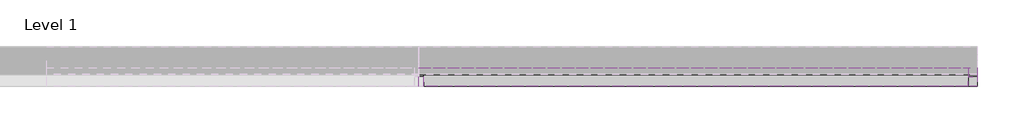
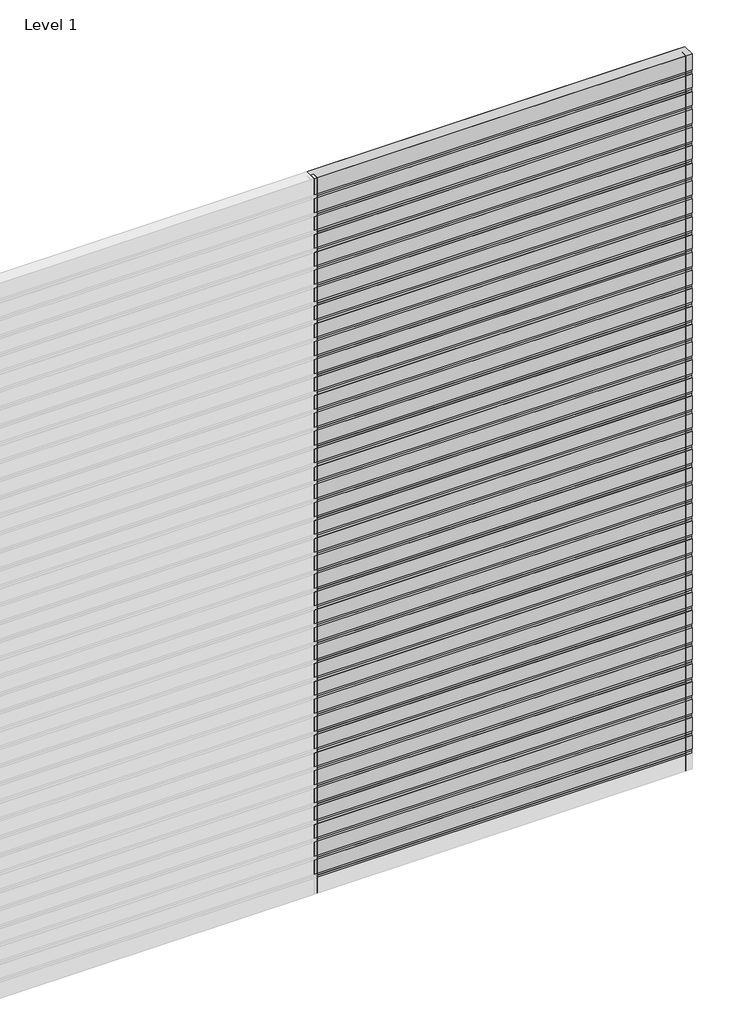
# One storey, part 3 of 3: 79 plates, 40 members.
"""IFC4 building model written with IfcOpenShell, lengths in millimetres."""

from ifc_helpers import new_model, si_unit, origin, place, context, project, spatial, transform, mapped, element, save
from components import rectangular_mullion_64cc6fdd, empty_system_panel_empty_095e2861, empty_system_panel_empty_98f2a64c, empty_system_panel_empty_149e9d60

model = new_model("IFC4")

# Units and contexts
model_context = context("Model", 3, world=origin())
ifc_project = project(units=[si_unit("LENGTHUNIT", "METRE", prefix="MILLI")], contexts=[model_context])

# Site, building, storey
site = spatial("IfcSite", under=ifc_project)
building = spatial("IfcBuilding", under=site)
storey = spatial("IfcBuildingStorey", under=building, Name="Level 1", Elevation=0.0)

# Members
placement = place(None, origin())
rectangular_mullion_shape = rectangular_mullion_64cc6fdd(model_context)
element("IfcMember", 1, ObjectType="Rectangular Mullion : RSen_21_CWM_support profile 50x50 - right_gen_duco projects", at=placement, inside=storey, context=model_context, shape_type="MappedRepresentation", body=[
    mapped(rectangular_mullion_shape, transform((6000.0, 3000.0, 6000.0), x_axis=(1.0, 0.0, 0.0), y_axis=(0.0, 1.0, 0.0), z_axis=(0.0, 0.0, 1.0))),
])
element("IfcMember", 2, ObjectType="Rectangular Mullion : RSen_21_CWM_support profile 50x50 - right_gen_duco projects", at=placement, inside=storey, context=model_context, shape_type="MappedRepresentation", body=[
    mapped(rectangular_mullion_shape, transform((6000.0, 3000.0, 150.0), x_axis=(1.0, 0.0, 0.0), y_axis=(0.0, 1.0, 0.0), z_axis=(0.0, 0.0, 1.0))),
])
element("IfcMember", 3, ObjectType="Rectangular Mullion : RSen_21_CWM_support profile 50x50 - right_gen_duco projects", at=placement, inside=storey, context=model_context, shape_type="MappedRepresentation", body=[
    mapped(rectangular_mullion_shape, transform((6000.0, 3000.0, 300.0), x_axis=(1.0, 0.0, 0.0), y_axis=(0.0, 1.0, 0.0), z_axis=(0.0, 0.0, 1.0))),
])
element("IfcMember", 4, ObjectType="Rectangular Mullion : RSen_21_CWM_support profile 50x50 - right_gen_duco projects", at=placement, inside=storey, context=model_context, shape_type="MappedRepresentation", body=[
    mapped(rectangular_mullion_shape, transform((6000.0, 3000.0, 450.0), x_axis=(1.0, 0.0, 0.0), y_axis=(0.0, 1.0, 0.0), z_axis=(0.0, 0.0, 1.0))),
])
element("IfcMember", 5, ObjectType="Rectangular Mullion : RSen_21_CWM_support profile 50x50 - right_gen_duco projects", at=placement, inside=storey, context=model_context, shape_type="MappedRepresentation", body=[
    mapped(rectangular_mullion_shape, transform((6000.0, 3000.0, 600.0), x_axis=(1.0, 0.0, 0.0), y_axis=(0.0, 1.0, 0.0), z_axis=(0.0, 0.0, 1.0))),
])
element("IfcMember", 6, ObjectType="Rectangular Mullion : RSen_21_CWM_support profile 50x50 - right_gen_duco projects", at=placement, inside=storey, context=model_context, shape_type="MappedRepresentation", body=[
    mapped(rectangular_mullion_shape, transform((6000.0, 3000.0, 750.0), x_axis=(1.0, 0.0, 0.0), y_axis=(0.0, 1.0, 0.0), z_axis=(0.0, 0.0, 1.0))),
])
element("IfcMember", 7, ObjectType="Rectangular Mullion : RSen_21_CWM_support profile 50x50 - right_gen_duco projects", at=placement, inside=storey, context=model_context, shape_type="MappedRepresentation", body=[
    mapped(rectangular_mullion_shape, transform((6000.0, 3000.0, 900.0), x_axis=(1.0, 0.0, 0.0), y_axis=(0.0, 1.0, 0.0), z_axis=(0.0, 0.0, 1.0))),
])
element("IfcMember", 8, ObjectType="Rectangular Mullion : RSen_21_CWM_support profile 50x50 - right_gen_duco projects", at=placement, inside=storey, context=model_context, shape_type="MappedRepresentation", body=[
    mapped(rectangular_mullion_shape, transform((6000.0, 3000.0, 1050.0), x_axis=(1.0, 0.0, 0.0), y_axis=(0.0, 1.0, 0.0), z_axis=(0.0, 0.0, 1.0))),
])
element("IfcMember", 9, ObjectType="Rectangular Mullion : RSen_21_CWM_support profile 50x50 - right_gen_duco projects", at=placement, inside=storey, context=model_context, shape_type="MappedRepresentation", body=[
    mapped(rectangular_mullion_shape, transform((6000.0, 3000.0, 1200.0), x_axis=(1.0, 0.0, 0.0), y_axis=(0.0, 1.0, 0.0), z_axis=(0.0, 0.0, 1.0))),
])
element("IfcMember", 10, ObjectType="Rectangular Mullion : RSen_21_CWM_support profile 50x50 - right_gen_duco projects", at=placement, inside=storey, context=model_context, shape_type="MappedRepresentation", body=[
    mapped(rectangular_mullion_shape, transform((6000.0, 3000.0, 1350.0), x_axis=(1.0, 0.0, 0.0), y_axis=(0.0, 1.0, 0.0), z_axis=(0.0, 0.0, 1.0))),
])
element("IfcMember", 11, ObjectType="Rectangular Mullion : RSen_21_CWM_support profile 50x50 - right_gen_duco projects", at=placement, inside=storey, context=model_context, shape_type="MappedRepresentation", body=[
    mapped(rectangular_mullion_shape, transform((6000.0, 3000.0, 1500.0), x_axis=(1.0, 0.0, 0.0), y_axis=(0.0, 1.0, 0.0), z_axis=(0.0, 0.0, 1.0))),
])
element("IfcMember", 12, ObjectType="Rectangular Mullion : RSen_21_CWM_support profile 50x50 - right_gen_duco projects", at=placement, inside=storey, context=model_context, shape_type="MappedRepresentation", body=[
    mapped(rectangular_mullion_shape, transform((6000.0, 3000.0, 1650.0), x_axis=(1.0, 0.0, 0.0), y_axis=(0.0, 1.0, 0.0), z_axis=(0.0, 0.0, 1.0))),
])
element("IfcMember", 13, ObjectType="Rectangular Mullion : RSen_21_CWM_support profile 50x50 - right_gen_duco projects", at=placement, inside=storey, context=model_context, shape_type="MappedRepresentation", body=[
    mapped(rectangular_mullion_shape, transform((6000.0, 3000.0, 1800.0), x_axis=(1.0, 0.0, 0.0), y_axis=(0.0, 1.0, 0.0), z_axis=(0.0, 0.0, 1.0))),
])
element("IfcMember", 14, ObjectType="Rectangular Mullion : RSen_21_CWM_support profile 50x50 - right_gen_duco projects", at=placement, inside=storey, context=model_context, shape_type="MappedRepresentation", body=[
    mapped(rectangular_mullion_shape, transform((6000.0, 3000.0, 1950.0), x_axis=(1.0, 0.0, 0.0), y_axis=(0.0, 1.0, 0.0), z_axis=(0.0, 0.0, 1.0))),
])
element("IfcMember", 15, ObjectType="Rectangular Mullion : RSen_21_CWM_support profile 50x50 - right_gen_duco projects", at=placement, inside=storey, context=model_context, shape_type="MappedRepresentation", body=[
    mapped(rectangular_mullion_shape, transform((6000.0, 3000.0, 2100.0), x_axis=(1.0, 0.0, 0.0), y_axis=(0.0, 1.0, 0.0), z_axis=(0.0, 0.0, 1.0))),
])
element("IfcMember", 16, ObjectType="Rectangular Mullion : RSen_21_CWM_support profile 50x50 - right_gen_duco projects", at=placement, inside=storey, context=model_context, shape_type="MappedRepresentation", body=[
    mapped(rectangular_mullion_shape, transform((6000.0, 3000.0, 2250.0), x_axis=(1.0, 0.0, 0.0), y_axis=(0.0, 1.0, 0.0), z_axis=(0.0, 0.0, 1.0))),
])
element("IfcMember", 17, ObjectType="Rectangular Mullion : RSen_21_CWM_support profile 50x50 - right_gen_duco projects", at=placement, inside=storey, context=model_context, shape_type="MappedRepresentation", body=[
    mapped(rectangular_mullion_shape, transform((6000.0, 3000.0, 2400.0), x_axis=(1.0, 0.0, 0.0), y_axis=(0.0, 1.0, 0.0), z_axis=(0.0, 0.0, 1.0))),
])
element("IfcMember", 18, ObjectType="Rectangular Mullion : RSen_21_CWM_support profile 50x50 - right_gen_duco projects", at=placement, inside=storey, context=model_context, shape_type="MappedRepresentation", body=[
    mapped(rectangular_mullion_shape, transform((6000.0, 3000.0, 2550.0), x_axis=(1.0, 0.0, 0.0), y_axis=(0.0, 1.0, 0.0), z_axis=(0.0, 0.0, 1.0))),
])
element("IfcMember", 19, ObjectType="Rectangular Mullion : RSen_21_CWM_support profile 50x50 - right_gen_duco projects", at=placement, inside=storey, context=model_context, shape_type="MappedRepresentation", body=[
    mapped(rectangular_mullion_shape, transform((6000.0, 3000.0, 2700.0), x_axis=(1.0, 0.0, 0.0), y_axis=(0.0, 1.0, 0.0), z_axis=(0.0, 0.0, 1.0))),
])
element("IfcMember", 20, ObjectType="Rectangular Mullion : RSen_21_CWM_support profile 50x50 - right_gen_duco projects", at=placement, inside=storey, context=model_context, shape_type="MappedRepresentation", body=[
    mapped(rectangular_mullion_shape, transform((6000.0, 3000.0, 2850.0), x_axis=(1.0, 0.0, 0.0), y_axis=(0.0, 1.0, 0.0), z_axis=(0.0, 0.0, 1.0))),
])
element("IfcMember", 21, ObjectType="Rectangular Mullion : RSen_21_CWM_support profile 50x50 - right_gen_duco projects", at=placement, inside=storey, context=model_context, shape_type="MappedRepresentation", body=[
    mapped(rectangular_mullion_shape, transform((6000.0, 3000.0, 3000.0), x_axis=(1.0, 0.0, 0.0), y_axis=(0.0, 1.0, 0.0), z_axis=(0.0, 0.0, 1.0))),
])
element("IfcMember", 22, ObjectType="Rectangular Mullion : RSen_21_CWM_support profile 50x50 - right_gen_duco projects", at=placement, inside=storey, context=model_context, shape_type="MappedRepresentation", body=[
    mapped(rectangular_mullion_shape, transform((6000.0, 3000.0, 3150.0), x_axis=(1.0, 0.0, 0.0), y_axis=(0.0, 1.0, 0.0), z_axis=(0.0, 0.0, 1.0))),
])
element("IfcMember", 23, ObjectType="Rectangular Mullion : RSen_21_CWM_support profile 50x50 - right_gen_duco projects", at=placement, inside=storey, context=model_context, shape_type="MappedRepresentation", body=[
    mapped(rectangular_mullion_shape, transform((6000.0, 3000.0, 3300.0), x_axis=(1.0, 0.0, 0.0), y_axis=(0.0, 1.0, 0.0), z_axis=(0.0, 0.0, 1.0))),
])
element("IfcMember", 24, ObjectType="Rectangular Mullion : RSen_21_CWM_support profile 50x50 - right_gen_duco projects", at=placement, inside=storey, context=model_context, shape_type="MappedRepresentation", body=[
    mapped(rectangular_mullion_shape, transform((6000.0, 3000.0, 3450.0), x_axis=(1.0, 0.0, 0.0), y_axis=(0.0, 1.0, 0.0), z_axis=(0.0, 0.0, 1.0))),
])
element("IfcMember", 25, ObjectType="Rectangular Mullion : RSen_21_CWM_support profile 50x50 - right_gen_duco projects", at=placement, inside=storey, context=model_context, shape_type="MappedRepresentation", body=[
    mapped(rectangular_mullion_shape, transform((6000.0, 3000.0, 3600.0), x_axis=(1.0, 0.0, 0.0), y_axis=(0.0, 1.0, 0.0), z_axis=(0.0, 0.0, 1.0))),
])
element("IfcMember", 26, ObjectType="Rectangular Mullion : RSen_21_CWM_support profile 50x50 - right_gen_duco projects", at=placement, inside=storey, context=model_context, shape_type="MappedRepresentation", body=[
    mapped(rectangular_mullion_shape, transform((6000.0, 3000.0, 3750.0), x_axis=(1.0, 0.0, 0.0), y_axis=(0.0, 1.0, 0.0), z_axis=(0.0, 0.0, 1.0))),
])
element("IfcMember", 27, ObjectType="Rectangular Mullion : RSen_21_CWM_support profile 50x50 - right_gen_duco projects", at=placement, inside=storey, context=model_context, shape_type="MappedRepresentation", body=[
    mapped(rectangular_mullion_shape, transform((6000.0, 3000.0, 3900.0), x_axis=(1.0, 0.0, 0.0), y_axis=(0.0, 1.0, 0.0), z_axis=(0.0, 0.0, 1.0))),
])
element("IfcMember", 28, ObjectType="Rectangular Mullion : RSen_21_CWM_support profile 50x50 - right_gen_duco projects", at=placement, inside=storey, context=model_context, shape_type="MappedRepresentation", body=[
    mapped(rectangular_mullion_shape, transform((6000.0, 3000.0, 4050.0), x_axis=(1.0, 0.0, 0.0), y_axis=(0.0, 1.0, 0.0), z_axis=(0.0, 0.0, 1.0))),
])
element("IfcMember", 29, ObjectType="Rectangular Mullion : RSen_21_CWM_support profile 50x50 - right_gen_duco projects", at=placement, inside=storey, context=model_context, shape_type="MappedRepresentation", body=[
    mapped(rectangular_mullion_shape, transform((6000.0, 3000.0, 4200.0), x_axis=(1.0, 0.0, 0.0), y_axis=(0.0, 1.0, 0.0), z_axis=(0.0, 0.0, 1.0))),
])
element("IfcMember", 30, ObjectType="Rectangular Mullion : RSen_21_CWM_support profile 50x50 - right_gen_duco projects", at=placement, inside=storey, context=model_context, shape_type="MappedRepresentation", body=[
    mapped(rectangular_mullion_shape, transform((6000.0, 3000.0, 4350.0), x_axis=(1.0, 0.0, 0.0), y_axis=(0.0, 1.0, 0.0), z_axis=(0.0, 0.0, 1.0))),
])
element("IfcMember", 31, ObjectType="Rectangular Mullion : RSen_21_CWM_support profile 50x50 - right_gen_duco projects", at=placement, inside=storey, context=model_context, shape_type="MappedRepresentation", body=[
    mapped(rectangular_mullion_shape, transform((6000.0, 3000.0, 4500.0), x_axis=(1.0, 0.0, 0.0), y_axis=(0.0, 1.0, 0.0), z_axis=(0.0, 0.0, 1.0))),
])
element("IfcMember", 32, ObjectType="Rectangular Mullion : RSen_21_CWM_support profile 50x50 - right_gen_duco projects", at=placement, inside=storey, context=model_context, shape_type="MappedRepresentation", body=[
    mapped(rectangular_mullion_shape, transform((6000.0, 3000.0, 4650.0), x_axis=(1.0, 0.0, 0.0), y_axis=(0.0, 1.0, 0.0), z_axis=(0.0, 0.0, 1.0))),
])
element("IfcMember", 33, ObjectType="Rectangular Mullion : RSen_21_CWM_support profile 50x50 - right_gen_duco projects", at=placement, inside=storey, context=model_context, shape_type="MappedRepresentation", body=[
    mapped(rectangular_mullion_shape, transform((6000.0, 3000.0, 4800.0), x_axis=(1.0, 0.0, 0.0), y_axis=(0.0, 1.0, 0.0), z_axis=(0.0, 0.0, 1.0))),
])
element("IfcMember", 34, ObjectType="Rectangular Mullion : RSen_21_CWM_support profile 50x50 - right_gen_duco projects", at=placement, inside=storey, context=model_context, shape_type="MappedRepresentation", body=[
    mapped(rectangular_mullion_shape, transform((6000.0, 3000.0, 4950.0), x_axis=(1.0, 0.0, 0.0), y_axis=(0.0, 1.0, 0.0), z_axis=(0.0, 0.0, 1.0))),
])
element("IfcMember", 35, ObjectType="Rectangular Mullion : RSen_21_CWM_support profile 50x50 - right_gen_duco projects", at=placement, inside=storey, context=model_context, shape_type="MappedRepresentation", body=[
    mapped(rectangular_mullion_shape, transform((6000.0, 3000.0, 5100.0), x_axis=(1.0, 0.0, 0.0), y_axis=(0.0, 1.0, 0.0), z_axis=(0.0, 0.0, 1.0))),
])
element("IfcMember", 36, ObjectType="Rectangular Mullion : RSen_21_CWM_support profile 50x50 - right_gen_duco projects", at=placement, inside=storey, context=model_context, shape_type="MappedRepresentation", body=[
    mapped(rectangular_mullion_shape, transform((6000.0, 3000.0, 5250.0), x_axis=(1.0, 0.0, 0.0), y_axis=(0.0, 1.0, 0.0), z_axis=(0.0, 0.0, 1.0))),
])
element("IfcMember", 37, ObjectType="Rectangular Mullion : RSen_21_CWM_support profile 50x50 - right_gen_duco projects", at=placement, inside=storey, context=model_context, shape_type="MappedRepresentation", body=[
    mapped(rectangular_mullion_shape, transform((6000.0, 3000.0, 5400.0), x_axis=(1.0, 0.0, 0.0), y_axis=(0.0, 1.0, 0.0), z_axis=(0.0, 0.0, 1.0))),
])
element("IfcMember", 38, ObjectType="Rectangular Mullion : RSen_21_CWM_support profile 50x50 - right_gen_duco projects", at=placement, inside=storey, context=model_context, shape_type="MappedRepresentation", body=[
    mapped(rectangular_mullion_shape, transform((6000.0, 3000.0, 5550.0), x_axis=(1.0, 0.0, 0.0), y_axis=(0.0, 1.0, 0.0), z_axis=(0.0, 0.0, 1.0))),
])
element("IfcMember", 39, ObjectType="Rectangular Mullion : RSen_21_CWM_support profile 50x50 - right_gen_duco projects", at=placement, inside=storey, context=model_context, shape_type="MappedRepresentation", body=[
    mapped(rectangular_mullion_shape, transform((6000.0, 3000.0, 5700.0), x_axis=(1.0, 0.0, 0.0), y_axis=(0.0, 1.0, 0.0), z_axis=(0.0, 0.0, 1.0))),
])
element("IfcMember", 40, ObjectType="Rectangular Mullion : RSen_21_CWM_support profile 50x50 - right_gen_duco projects", at=placement, inside=storey, context=model_context, shape_type="MappedRepresentation", body=[
    mapped(rectangular_mullion_shape, transform((6000.0, 3000.0, 5850.0), x_axis=(1.0, 0.0, 0.0), y_axis=(0.0, 1.0, 0.0), z_axis=(0.0, 0.0, 1.0))),
])

# Plates
empty_system_panel_empty_shape = empty_system_panel_empty_095e2861(model_context)
element("IfcPlate", 41, ObjectType="Empty System Panel : Empty", at=placement, inside=storey, context=model_context, shape_type="MappedRepresentation", body=[
    mapped(empty_system_panel_empty_shape, transform((4500.0, 3000.0, 5867.5), x_axis=(-1.0, 0.0, 0.0), y_axis=(0.0, -1.0, 0.0), z_axis=(0.0, 0.0, 1.0))),
])
empty_system_panel_empty_2_shape = empty_system_panel_empty_98f2a64c(model_context)
element("IfcPlate", 42, ObjectType="Empty System Panel : Empty", at=placement, inside=storey, context=model_context, shape_type="MappedRepresentation", body=[
    mapped(empty_system_panel_empty_2_shape, transform((4500.0, 3000.0, 167.5), x_axis=(-1.0, 0.0, 0.0), y_axis=(0.0, -1.0, 0.0), z_axis=(0.0, 0.0, 1.0))),
])
element("IfcPlate", 43, ObjectType="Empty System Panel : Empty", at=placement, inside=storey, context=model_context, shape_type="MappedRepresentation", body=[
    mapped(empty_system_panel_empty_2_shape, transform((4500.0, 3000.0, 317.5), x_axis=(-1.0, 0.0, 0.0), y_axis=(0.0, -1.0, 0.0), z_axis=(0.0, 0.0, 1.0))),
])
element("IfcPlate", 44, ObjectType="Empty System Panel : Empty", at=placement, inside=storey, context=model_context, shape_type="MappedRepresentation", body=[
    mapped(empty_system_panel_empty_2_shape, transform((4500.0, 3000.0, 467.5), x_axis=(-1.0, 0.0, 0.0), y_axis=(0.0, -1.0, 0.0), z_axis=(0.0, 0.0, 1.0))),
])
element("IfcPlate", 45, ObjectType="Empty System Panel : Empty", at=placement, inside=storey, context=model_context, shape_type="MappedRepresentation", body=[
    mapped(empty_system_panel_empty_2_shape, transform((4500.0, 3000.0, 617.5), x_axis=(-1.0, 0.0, 0.0), y_axis=(0.0, -1.0, 0.0), z_axis=(0.0, 0.0, 1.0))),
])
element("IfcPlate", 46, ObjectType="Empty System Panel : Empty", at=placement, inside=storey, context=model_context, shape_type="MappedRepresentation", body=[
    mapped(empty_system_panel_empty_2_shape, transform((4500.0, 3000.0, 767.5), x_axis=(-1.0, 0.0, 0.0), y_axis=(0.0, -1.0, 0.0), z_axis=(0.0, 0.0, 1.0))),
])
element("IfcPlate", 47, ObjectType="Empty System Panel : Empty", at=placement, inside=storey, context=model_context, shape_type="MappedRepresentation", body=[
    mapped(empty_system_panel_empty_2_shape, transform((4500.0, 3000.0, 917.5), x_axis=(-1.0, 0.0, 0.0), y_axis=(0.0, -1.0, 0.0), z_axis=(0.0, 0.0, 1.0))),
])
element("IfcPlate", 48, ObjectType="Empty System Panel : Empty", at=placement, inside=storey, context=model_context, shape_type="MappedRepresentation", body=[
    mapped(empty_system_panel_empty_2_shape, transform((4500.0, 3000.0, 1067.5), x_axis=(-1.0, 0.0, 0.0), y_axis=(0.0, -1.0, 0.0), z_axis=(0.0, 0.0, 1.0))),
])
element("IfcPlate", 49, ObjectType="Empty System Panel : Empty", at=placement, inside=storey, context=model_context, shape_type="MappedRepresentation", body=[
    mapped(empty_system_panel_empty_2_shape, transform((4500.0, 3000.0, 1217.5), x_axis=(-1.0, 0.0, 0.0), y_axis=(0.0, -1.0, 0.0), z_axis=(0.0, 0.0, 1.0))),
])
element("IfcPlate", 50, ObjectType="Empty System Panel : Empty", at=placement, inside=storey, context=model_context, shape_type="MappedRepresentation", body=[
    mapped(empty_system_panel_empty_2_shape, transform((4500.0, 3000.0, 1367.5), x_axis=(-1.0, 0.0, 0.0), y_axis=(0.0, -1.0, 0.0), z_axis=(0.0, 0.0, 1.0))),
])
element("IfcPlate", 51, ObjectType="Empty System Panel : Empty", at=placement, inside=storey, context=model_context, shape_type="MappedRepresentation", body=[
    mapped(empty_system_panel_empty_2_shape, transform((4500.0, 3000.0, 1517.5), x_axis=(-1.0, 0.0, 0.0), y_axis=(0.0, -1.0, 0.0), z_axis=(0.0, 0.0, 1.0))),
])
element("IfcPlate", 52, ObjectType="Empty System Panel : Empty", at=placement, inside=storey, context=model_context, shape_type="MappedRepresentation", body=[
    mapped(empty_system_panel_empty_2_shape, transform((4500.0, 3000.0, 1667.5), x_axis=(-1.0, 0.0, 0.0), y_axis=(0.0, -1.0, 0.0), z_axis=(0.0, 0.0, 1.0))),
])
element("IfcPlate", 53, ObjectType="Empty System Panel : Empty", at=placement, inside=storey, context=model_context, shape_type="MappedRepresentation", body=[
    mapped(empty_system_panel_empty_2_shape, transform((4500.0, 3000.0, 1817.5), x_axis=(-1.0, 0.0, 0.0), y_axis=(0.0, -1.0, 0.0), z_axis=(0.0, 0.0, 1.0))),
])
element("IfcPlate", 54, ObjectType="Empty System Panel : Empty", at=placement, inside=storey, context=model_context, shape_type="MappedRepresentation", body=[
    mapped(empty_system_panel_empty_2_shape, transform((4500.0, 3000.0, 1967.5), x_axis=(-1.0, 0.0, 0.0), y_axis=(0.0, -1.0, 0.0), z_axis=(0.0, 0.0, 1.0))),
])
element("IfcPlate", 55, ObjectType="Empty System Panel : Empty", at=placement, inside=storey, context=model_context, shape_type="MappedRepresentation", body=[
    mapped(empty_system_panel_empty_2_shape, transform((4500.0, 3000.0, 2117.5), x_axis=(-1.0, 0.0, 0.0), y_axis=(0.0, -1.0, 0.0), z_axis=(0.0, 0.0, 1.0))),
])
element("IfcPlate", 56, ObjectType="Empty System Panel : Empty", at=placement, inside=storey, context=model_context, shape_type="MappedRepresentation", body=[
    mapped(empty_system_panel_empty_2_shape, transform((4500.0, 3000.0, 2267.5), x_axis=(-1.0, 0.0, 0.0), y_axis=(0.0, -1.0, 0.0), z_axis=(0.0, 0.0, 1.0))),
])
element("IfcPlate", 57, ObjectType="Empty System Panel : Empty", at=placement, inside=storey, context=model_context, shape_type="MappedRepresentation", body=[
    mapped(empty_system_panel_empty_2_shape, transform((4500.0, 3000.0, 2417.5), x_axis=(-1.0, 0.0, 0.0), y_axis=(0.0, -1.0, 0.0), z_axis=(0.0, 0.0, 1.0))),
])
element("IfcPlate", 58, ObjectType="Empty System Panel : Empty", at=placement, inside=storey, context=model_context, shape_type="MappedRepresentation", body=[
    mapped(empty_system_panel_empty_2_shape, transform((4500.0, 3000.0, 2567.5), x_axis=(-1.0, 0.0, 0.0), y_axis=(0.0, -1.0, 0.0), z_axis=(0.0, 0.0, 1.0))),
])
element("IfcPlate", 59, ObjectType="Empty System Panel : Empty", at=placement, inside=storey, context=model_context, shape_type="MappedRepresentation", body=[
    mapped(empty_system_panel_empty_2_shape, transform((4500.0, 3000.0, 2717.5), x_axis=(-1.0, 0.0, 0.0), y_axis=(0.0, -1.0, 0.0), z_axis=(0.0, 0.0, 1.0))),
])
element("IfcPlate", 60, ObjectType="Empty System Panel : Empty", at=placement, inside=storey, context=model_context, shape_type="MappedRepresentation", body=[
    mapped(empty_system_panel_empty_2_shape, transform((4500.0, 3000.0, 2867.5), x_axis=(-1.0, 0.0, 0.0), y_axis=(0.0, -1.0, 0.0), z_axis=(0.0, 0.0, 1.0))),
])
element("IfcPlate", 61, ObjectType="Empty System Panel : Empty", at=placement, inside=storey, context=model_context, shape_type="MappedRepresentation", body=[
    mapped(empty_system_panel_empty_2_shape, transform((4500.0, 3000.0, 3017.5), x_axis=(-1.0, 0.0, 0.0), y_axis=(0.0, -1.0, 0.0), z_axis=(0.0, 0.0, 1.0))),
])
element("IfcPlate", 62, ObjectType="Empty System Panel : Empty", at=placement, inside=storey, context=model_context, shape_type="MappedRepresentation", body=[
    mapped(empty_system_panel_empty_2_shape, transform((4500.0, 3000.0, 3167.5), x_axis=(-1.0, 0.0, 0.0), y_axis=(0.0, -1.0, 0.0), z_axis=(0.0, 0.0, 1.0))),
])
element("IfcPlate", 63, ObjectType="Empty System Panel : Empty", at=placement, inside=storey, context=model_context, shape_type="MappedRepresentation", body=[
    mapped(empty_system_panel_empty_2_shape, transform((4500.0, 3000.0, 3317.5), x_axis=(-1.0, 0.0, 0.0), y_axis=(0.0, -1.0, 0.0), z_axis=(0.0, 0.0, 1.0))),
])
element("IfcPlate", 64, ObjectType="Empty System Panel : Empty", at=placement, inside=storey, context=model_context, shape_type="MappedRepresentation", body=[
    mapped(empty_system_panel_empty_2_shape, transform((4500.0, 3000.0, 3467.5), x_axis=(-1.0, 0.0, 0.0), y_axis=(0.0, -1.0, 0.0), z_axis=(0.0, 0.0, 1.0))),
])
element("IfcPlate", 65, ObjectType="Empty System Panel : Empty", at=placement, inside=storey, context=model_context, shape_type="MappedRepresentation", body=[
    mapped(empty_system_panel_empty_2_shape, transform((4500.0, 3000.0, 3617.5), x_axis=(-1.0, 0.0, 0.0), y_axis=(0.0, -1.0, 0.0), z_axis=(0.0, 0.0, 1.0))),
])
element("IfcPlate", 66, ObjectType="Empty System Panel : Empty", at=placement, inside=storey, context=model_context, shape_type="MappedRepresentation", body=[
    mapped(empty_system_panel_empty_2_shape, transform((4500.0, 3000.0, 3767.5), x_axis=(-1.0, 0.0, 0.0), y_axis=(0.0, -1.0, 0.0), z_axis=(0.0, 0.0, 1.0))),
])
element("IfcPlate", 67, ObjectType="Empty System Panel : Empty", at=placement, inside=storey, context=model_context, shape_type="MappedRepresentation", body=[
    mapped(empty_system_panel_empty_2_shape, transform((4500.0, 3000.0, 3917.5), x_axis=(-1.0, 0.0, 0.0), y_axis=(0.0, -1.0, 0.0), z_axis=(0.0, 0.0, 1.0))),
])
element("IfcPlate", 68, ObjectType="Empty System Panel : Empty", at=placement, inside=storey, context=model_context, shape_type="MappedRepresentation", body=[
    mapped(empty_system_panel_empty_2_shape, transform((4500.0, 3000.0, 4067.5), x_axis=(-1.0, 0.0, 0.0), y_axis=(0.0, -1.0, 0.0), z_axis=(0.0, 0.0, 1.0))),
])
element("IfcPlate", 69, ObjectType="Empty System Panel : Empty", at=placement, inside=storey, context=model_context, shape_type="MappedRepresentation", body=[
    mapped(empty_system_panel_empty_2_shape, transform((4500.0, 3000.0, 4217.5), x_axis=(-1.0, 0.0, 0.0), y_axis=(0.0, -1.0, 0.0), z_axis=(0.0, 0.0, 1.0))),
])
element("IfcPlate", 70, ObjectType="Empty System Panel : Empty", at=placement, inside=storey, context=model_context, shape_type="MappedRepresentation", body=[
    mapped(empty_system_panel_empty_2_shape, transform((4500.0, 3000.0, 4367.5), x_axis=(-1.0, 0.0, 0.0), y_axis=(0.0, -1.0, 0.0), z_axis=(0.0, 0.0, 1.0))),
])
element("IfcPlate", 71, ObjectType="Empty System Panel : Empty", at=placement, inside=storey, context=model_context, shape_type="MappedRepresentation", body=[
    mapped(empty_system_panel_empty_2_shape, transform((4500.0, 3000.0, 4517.5), x_axis=(-1.0, 0.0, 0.0), y_axis=(0.0, -1.0, 0.0), z_axis=(0.0, 0.0, 1.0))),
])
element("IfcPlate", 72, ObjectType="Empty System Panel : Empty", at=placement, inside=storey, context=model_context, shape_type="MappedRepresentation", body=[
    mapped(empty_system_panel_empty_2_shape, transform((4500.0, 3000.0, 4667.5), x_axis=(-1.0, 0.0, 0.0), y_axis=(0.0, -1.0, 0.0), z_axis=(0.0, 0.0, 1.0))),
])
element("IfcPlate", 73, ObjectType="Empty System Panel : Empty", at=placement, inside=storey, context=model_context, shape_type="MappedRepresentation", body=[
    mapped(empty_system_panel_empty_2_shape, transform((4500.0, 3000.0, 4817.5), x_axis=(-1.0, 0.0, 0.0), y_axis=(0.0, -1.0, 0.0), z_axis=(0.0, 0.0, 1.0))),
])
element("IfcPlate", 74, ObjectType="Empty System Panel : Empty", at=placement, inside=storey, context=model_context, shape_type="MappedRepresentation", body=[
    mapped(empty_system_panel_empty_2_shape, transform((4500.0, 3000.0, 4967.5), x_axis=(-1.0, 0.0, 0.0), y_axis=(0.0, -1.0, 0.0), z_axis=(0.0, 0.0, 1.0))),
])
element("IfcPlate", 75, ObjectType="Empty System Panel : Empty", at=placement, inside=storey, context=model_context, shape_type="MappedRepresentation", body=[
    mapped(empty_system_panel_empty_2_shape, transform((4500.0, 3000.0, 5117.5), x_axis=(-1.0, 0.0, 0.0), y_axis=(0.0, -1.0, 0.0), z_axis=(0.0, 0.0, 1.0))),
])
element("IfcPlate", 76, ObjectType="Empty System Panel : Empty", at=placement, inside=storey, context=model_context, shape_type="MappedRepresentation", body=[
    mapped(empty_system_panel_empty_2_shape, transform((4500.0, 3000.0, 5267.5), x_axis=(-1.0, 0.0, 0.0), y_axis=(0.0, -1.0, 0.0), z_axis=(0.0, 0.0, 1.0))),
])
element("IfcPlate", 77, ObjectType="Empty System Panel : Empty", at=placement, inside=storey, context=model_context, shape_type="MappedRepresentation", body=[
    mapped(empty_system_panel_empty_2_shape, transform((4500.0, 3000.0, 5417.5), x_axis=(-1.0, 0.0, 0.0), y_axis=(0.0, -1.0, 0.0), z_axis=(0.0, 0.0, 1.0))),
])
element("IfcPlate", 78, ObjectType="Empty System Panel : Empty", at=placement, inside=storey, context=model_context, shape_type="MappedRepresentation", body=[
    mapped(empty_system_panel_empty_2_shape, transform((4500.0, 3000.0, 5567.5), x_axis=(-1.0, 0.0, 0.0), y_axis=(0.0, -1.0, 0.0), z_axis=(0.0, 0.0, 1.0))),
])
element("IfcPlate", 79, ObjectType="Empty System Panel : Empty", at=placement, inside=storey, context=model_context, shape_type="MappedRepresentation", body=[
    mapped(empty_system_panel_empty_2_shape, transform((4500.0, 3000.0, 5717.5), x_axis=(-1.0, 0.0, 0.0), y_axis=(0.0, -1.0, 0.0), z_axis=(0.0, 0.0, 1.0))),
])
empty_system_panel_empty_3_shape = empty_system_panel_empty_149e9d60(model_context)
element("IfcPlate", 80, ObjectType="Empty System Panel : Empty", at=placement, inside=storey, context=model_context, shape_type="MappedRepresentation", body=[
    mapped(empty_system_panel_empty_3_shape, transform((4487.5, 3000.0, 0.0), x_axis=(-1.0, 0.0, 0.0), y_axis=(0.0, -1.0, 0.0), z_axis=(0.0, 0.0, 1.0))),
])
element("IfcPlate", 81, ObjectType="Empty System Panel : Empty", at=placement, inside=storey, context=model_context, shape_type="MappedRepresentation", body=[
    mapped(empty_system_panel_empty_3_shape, transform((4487.5, 3000.0, 150.0), x_axis=(-1.0, 0.0, 0.0), y_axis=(0.0, -1.0, 0.0), z_axis=(0.0, 0.0, 1.0))),
])
element("IfcPlate", 82, ObjectType="Empty System Panel : Empty", at=placement, inside=storey, context=model_context, shape_type="MappedRepresentation", body=[
    mapped(empty_system_panel_empty_3_shape, transform((4487.5, 3000.0, 300.0), x_axis=(-1.0, 0.0, 0.0), y_axis=(0.0, -1.0, 0.0), z_axis=(0.0, 0.0, 1.0))),
])
element("IfcPlate", 83, ObjectType="Empty System Panel : Empty", at=placement, inside=storey, context=model_context, shape_type="MappedRepresentation", body=[
    mapped(empty_system_panel_empty_3_shape, transform((4487.5, 3000.0, 450.0), x_axis=(-1.0, 0.0, 0.0), y_axis=(0.0, -1.0, 0.0), z_axis=(0.0, 0.0, 1.0))),
])
element("IfcPlate", 84, ObjectType="Empty System Panel : Empty", at=placement, inside=storey, context=model_context, shape_type="MappedRepresentation", body=[
    mapped(empty_system_panel_empty_3_shape, transform((4487.5, 3000.0, 600.0), x_axis=(-1.0, 0.0, 0.0), y_axis=(0.0, -1.0, 0.0), z_axis=(0.0, 0.0, 1.0))),
])
element("IfcPlate", 85, ObjectType="Empty System Panel : Empty", at=placement, inside=storey, context=model_context, shape_type="MappedRepresentation", body=[
    mapped(empty_system_panel_empty_3_shape, transform((4487.5, 3000.0, 750.0), x_axis=(-1.0, 0.0, 0.0), y_axis=(0.0, -1.0, 0.0), z_axis=(0.0, 0.0, 1.0))),
])
element("IfcPlate", 86, ObjectType="Empty System Panel : Empty", at=placement, inside=storey, context=model_context, shape_type="MappedRepresentation", body=[
    mapped(empty_system_panel_empty_3_shape, transform((4487.5, 3000.0, 900.0), x_axis=(-1.0, 0.0, 0.0), y_axis=(0.0, -1.0, 0.0), z_axis=(0.0, 0.0, 1.0))),
])
element("IfcPlate", 87, ObjectType="Empty System Panel : Empty", at=placement, inside=storey, context=model_context, shape_type="MappedRepresentation", body=[
    mapped(empty_system_panel_empty_3_shape, transform((4487.5, 3000.0, 1050.0), x_axis=(-1.0, 0.0, 0.0), y_axis=(0.0, -1.0, 0.0), z_axis=(0.0, 0.0, 1.0))),
])
element("IfcPlate", 88, ObjectType="Empty System Panel : Empty", at=placement, inside=storey, context=model_context, shape_type="MappedRepresentation", body=[
    mapped(empty_system_panel_empty_3_shape, transform((4487.5, 3000.0, 1200.0), x_axis=(-1.0, 0.0, 0.0), y_axis=(0.0, -1.0, 0.0), z_axis=(0.0, 0.0, 1.0))),
])
element("IfcPlate", 89, ObjectType="Empty System Panel : Empty", at=placement, inside=storey, context=model_context, shape_type="MappedRepresentation", body=[
    mapped(empty_system_panel_empty_3_shape, transform((4487.5, 3000.0, 1350.0), x_axis=(-1.0, 0.0, 0.0), y_axis=(0.0, -1.0, 0.0), z_axis=(0.0, 0.0, 1.0))),
])
element("IfcPlate", 90, ObjectType="Empty System Panel : Empty", at=placement, inside=storey, context=model_context, shape_type="MappedRepresentation", body=[
    mapped(empty_system_panel_empty_3_shape, transform((4487.5, 3000.0, 1500.0), x_axis=(-1.0, 0.0, 0.0), y_axis=(0.0, -1.0, 0.0), z_axis=(0.0, 0.0, 1.0))),
])
element("IfcPlate", 91, ObjectType="Empty System Panel : Empty", at=placement, inside=storey, context=model_context, shape_type="MappedRepresentation", body=[
    mapped(empty_system_panel_empty_3_shape, transform((4487.5, 3000.0, 1650.0), x_axis=(-1.0, 0.0, 0.0), y_axis=(0.0, -1.0, 0.0), z_axis=(0.0, 0.0, 1.0))),
])
element("IfcPlate", 92, ObjectType="Empty System Panel : Empty", at=placement, inside=storey, context=model_context, shape_type="MappedRepresentation", body=[
    mapped(empty_system_panel_empty_3_shape, transform((4487.5, 3000.0, 1800.0), x_axis=(-1.0, 0.0, 0.0), y_axis=(0.0, -1.0, 0.0), z_axis=(0.0, 0.0, 1.0))),
])
element("IfcPlate", 93, ObjectType="Empty System Panel : Empty", at=placement, inside=storey, context=model_context, shape_type="MappedRepresentation", body=[
    mapped(empty_system_panel_empty_3_shape, transform((4487.5, 3000.0, 1950.0), x_axis=(-1.0, 0.0, 0.0), y_axis=(0.0, -1.0, 0.0), z_axis=(0.0, 0.0, 1.0))),
])
element("IfcPlate", 94, ObjectType="Empty System Panel : Empty", at=placement, inside=storey, context=model_context, shape_type="MappedRepresentation", body=[
    mapped(empty_system_panel_empty_3_shape, transform((4487.5, 3000.0, 2100.0), x_axis=(-1.0, 0.0, 0.0), y_axis=(0.0, -1.0, 0.0), z_axis=(0.0, 0.0, 1.0))),
])
element("IfcPlate", 95, ObjectType="Empty System Panel : Empty", at=placement, inside=storey, context=model_context, shape_type="MappedRepresentation", body=[
    mapped(empty_system_panel_empty_3_shape, transform((4487.5, 3000.0, 2250.0), x_axis=(-1.0, 0.0, 0.0), y_axis=(0.0, -1.0, 0.0), z_axis=(0.0, 0.0, 1.0))),
])
element("IfcPlate", 96, ObjectType="Empty System Panel : Empty", at=placement, inside=storey, context=model_context, shape_type="MappedRepresentation", body=[
    mapped(empty_system_panel_empty_3_shape, transform((4487.5, 3000.0, 2400.0), x_axis=(-1.0, 0.0, 0.0), y_axis=(0.0, -1.0, 0.0), z_axis=(0.0, 0.0, 1.0))),
])
element("IfcPlate", 97, ObjectType="Empty System Panel : Empty", at=placement, inside=storey, context=model_context, shape_type="MappedRepresentation", body=[
    mapped(empty_system_panel_empty_3_shape, transform((4487.5, 3000.0, 2550.0), x_axis=(-1.0, 0.0, 0.0), y_axis=(0.0, -1.0, 0.0), z_axis=(0.0, 0.0, 1.0))),
])
element("IfcPlate", 98, ObjectType="Empty System Panel : Empty", at=placement, inside=storey, context=model_context, shape_type="MappedRepresentation", body=[
    mapped(empty_system_panel_empty_3_shape, transform((4487.5, 3000.0, 2700.0), x_axis=(-1.0, 0.0, 0.0), y_axis=(0.0, -1.0, 0.0), z_axis=(0.0, 0.0, 1.0))),
])
element("IfcPlate", 99, ObjectType="Empty System Panel : Empty", at=placement, inside=storey, context=model_context, shape_type="MappedRepresentation", body=[
    mapped(empty_system_panel_empty_3_shape, transform((4487.5, 3000.0, 2850.0), x_axis=(-1.0, 0.0, 0.0), y_axis=(0.0, -1.0, 0.0), z_axis=(0.0, 0.0, 1.0))),
])
element("IfcPlate", 100, ObjectType="Empty System Panel : Empty", at=placement, inside=storey, context=model_context, shape_type="MappedRepresentation", body=[
    mapped(empty_system_panel_empty_3_shape, transform((4487.5, 3000.0, 3000.0), x_axis=(-1.0, 0.0, 0.0), y_axis=(0.0, -1.0, 0.0), z_axis=(0.0, 0.0, 1.0))),
])
element("IfcPlate", 101, ObjectType="Empty System Panel : Empty", at=placement, inside=storey, context=model_context, shape_type="MappedRepresentation", body=[
    mapped(empty_system_panel_empty_3_shape, transform((4487.5, 3000.0, 3150.0), x_axis=(-1.0, 0.0, 0.0), y_axis=(0.0, -1.0, 0.0), z_axis=(0.0, 0.0, 1.0))),
])
element("IfcPlate", 102, ObjectType="Empty System Panel : Empty", at=placement, inside=storey, context=model_context, shape_type="MappedRepresentation", body=[
    mapped(empty_system_panel_empty_3_shape, transform((4487.5, 3000.0, 3300.0), x_axis=(-1.0, 0.0, 0.0), y_axis=(0.0, -1.0, 0.0), z_axis=(0.0, 0.0, 1.0))),
])
element("IfcPlate", 103, ObjectType="Empty System Panel : Empty", at=placement, inside=storey, context=model_context, shape_type="MappedRepresentation", body=[
    mapped(empty_system_panel_empty_3_shape, transform((4487.5, 3000.0, 3450.0), x_axis=(-1.0, 0.0, 0.0), y_axis=(0.0, -1.0, 0.0), z_axis=(0.0, 0.0, 1.0))),
])
element("IfcPlate", 104, ObjectType="Empty System Panel : Empty", at=placement, inside=storey, context=model_context, shape_type="MappedRepresentation", body=[
    mapped(empty_system_panel_empty_3_shape, transform((4487.5, 3000.0, 3600.0), x_axis=(-1.0, 0.0, 0.0), y_axis=(0.0, -1.0, 0.0), z_axis=(0.0, 0.0, 1.0))),
])
element("IfcPlate", 105, ObjectType="Empty System Panel : Empty", at=placement, inside=storey, context=model_context, shape_type="MappedRepresentation", body=[
    mapped(empty_system_panel_empty_3_shape, transform((4487.5, 3000.0, 3750.0), x_axis=(-1.0, 0.0, 0.0), y_axis=(0.0, -1.0, 0.0), z_axis=(0.0, 0.0, 1.0))),
])
element("IfcPlate", 106, ObjectType="Empty System Panel : Empty", at=placement, inside=storey, context=model_context, shape_type="MappedRepresentation", body=[
    mapped(empty_system_panel_empty_3_shape, transform((4487.5, 3000.0, 3900.0), x_axis=(-1.0, 0.0, 0.0), y_axis=(0.0, -1.0, 0.0), z_axis=(0.0, 0.0, 1.0))),
])
element("IfcPlate", 107, ObjectType="Empty System Panel : Empty", at=placement, inside=storey, context=model_context, shape_type="MappedRepresentation", body=[
    mapped(empty_system_panel_empty_3_shape, transform((4487.5, 3000.0, 4050.0), x_axis=(-1.0, 0.0, 0.0), y_axis=(0.0, -1.0, 0.0), z_axis=(0.0, 0.0, 1.0))),
])
element("IfcPlate", 108, ObjectType="Empty System Panel : Empty", at=placement, inside=storey, context=model_context, shape_type="MappedRepresentation", body=[
    mapped(empty_system_panel_empty_3_shape, transform((4487.5, 3000.0, 4200.0), x_axis=(-1.0, 0.0, 0.0), y_axis=(0.0, -1.0, 0.0), z_axis=(0.0, 0.0, 1.0))),
])
element("IfcPlate", 109, ObjectType="Empty System Panel : Empty", at=placement, inside=storey, context=model_context, shape_type="MappedRepresentation", body=[
    mapped(empty_system_panel_empty_3_shape, transform((4487.5, 3000.0, 4350.0), x_axis=(-1.0, 0.0, 0.0), y_axis=(0.0, -1.0, 0.0), z_axis=(0.0, 0.0, 1.0))),
])
element("IfcPlate", 110, ObjectType="Empty System Panel : Empty", at=placement, inside=storey, context=model_context, shape_type="MappedRepresentation", body=[
    mapped(empty_system_panel_empty_3_shape, transform((4487.5, 3000.0, 4500.0), x_axis=(-1.0, 0.0, 0.0), y_axis=(0.0, -1.0, 0.0), z_axis=(0.0, 0.0, 1.0))),
])
element("IfcPlate", 111, ObjectType="Empty System Panel : Empty", at=placement, inside=storey, context=model_context, shape_type="MappedRepresentation", body=[
    mapped(empty_system_panel_empty_3_shape, transform((4487.5, 3000.0, 4650.0), x_axis=(-1.0, 0.0, 0.0), y_axis=(0.0, -1.0, 0.0), z_axis=(0.0, 0.0, 1.0))),
])
element("IfcPlate", 112, ObjectType="Empty System Panel : Empty", at=placement, inside=storey, context=model_context, shape_type="MappedRepresentation", body=[
    mapped(empty_system_panel_empty_3_shape, transform((4487.5, 3000.0, 4800.0), x_axis=(-1.0, 0.0, 0.0), y_axis=(0.0, -1.0, 0.0), z_axis=(0.0, 0.0, 1.0))),
])
element("IfcPlate", 113, ObjectType="Empty System Panel : Empty", at=placement, inside=storey, context=model_context, shape_type="MappedRepresentation", body=[
    mapped(empty_system_panel_empty_3_shape, transform((4487.5, 3000.0, 4950.0), x_axis=(-1.0, 0.0, 0.0), y_axis=(0.0, -1.0, 0.0), z_axis=(0.0, 0.0, 1.0))),
])
element("IfcPlate", 114, ObjectType="Empty System Panel : Empty", at=placement, inside=storey, context=model_context, shape_type="MappedRepresentation", body=[
    mapped(empty_system_panel_empty_3_shape, transform((4487.5, 3000.0, 5100.0), x_axis=(-1.0, 0.0, 0.0), y_axis=(0.0, -1.0, 0.0), z_axis=(0.0, 0.0, 1.0))),
])
element("IfcPlate", 115, ObjectType="Empty System Panel : Empty", at=placement, inside=storey, context=model_context, shape_type="MappedRepresentation", body=[
    mapped(empty_system_panel_empty_3_shape, transform((4487.5, 3000.0, 5250.0), x_axis=(-1.0, 0.0, 0.0), y_axis=(0.0, -1.0, 0.0), z_axis=(0.0, 0.0, 1.0))),
])
element("IfcPlate", 116, ObjectType="Empty System Panel : Empty", at=placement, inside=storey, context=model_context, shape_type="MappedRepresentation", body=[
    mapped(empty_system_panel_empty_3_shape, transform((4487.5, 3000.0, 5400.0), x_axis=(-1.0, 0.0, 0.0), y_axis=(0.0, -1.0, 0.0), z_axis=(0.0, 0.0, 1.0))),
])
element("IfcPlate", 117, ObjectType="Empty System Panel : Empty", at=placement, inside=storey, context=model_context, shape_type="MappedRepresentation", body=[
    mapped(empty_system_panel_empty_3_shape, transform((4487.5, 3000.0, 5550.0), x_axis=(-1.0, 0.0, 0.0), y_axis=(0.0, -1.0, 0.0), z_axis=(0.0, 0.0, 1.0))),
])
element("IfcPlate", 118, ObjectType="Empty System Panel : Empty", at=placement, inside=storey, context=model_context, shape_type="MappedRepresentation", body=[
    mapped(empty_system_panel_empty_3_shape, transform((4487.5, 3000.0, 5700.0), x_axis=(-1.0, 0.0, 0.0), y_axis=(0.0, -1.0, 0.0), z_axis=(0.0, 0.0, 1.0))),
])
element("IfcPlate", 119, ObjectType="Empty System Panel : Empty", at=placement, inside=storey, context=model_context, shape_type="MappedRepresentation", body=[
    mapped(empty_system_panel_empty_3_shape, transform((4487.5, 3000.0, 5850.0), x_axis=(-1.0, 0.0, 0.0), y_axis=(0.0, -1.0, 0.0), z_axis=(0.0, 0.0, 1.0))),
])

save(model, "model.ifc")
